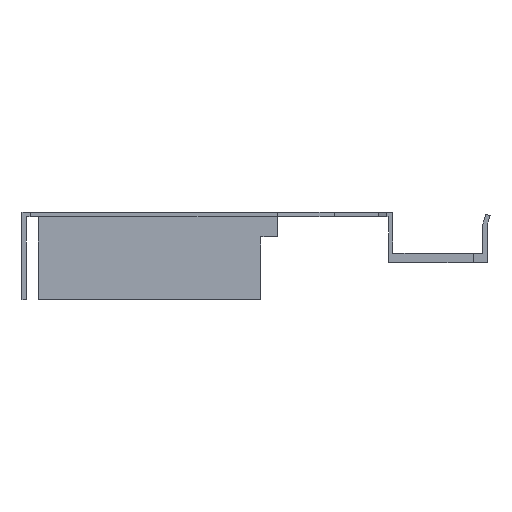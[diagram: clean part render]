
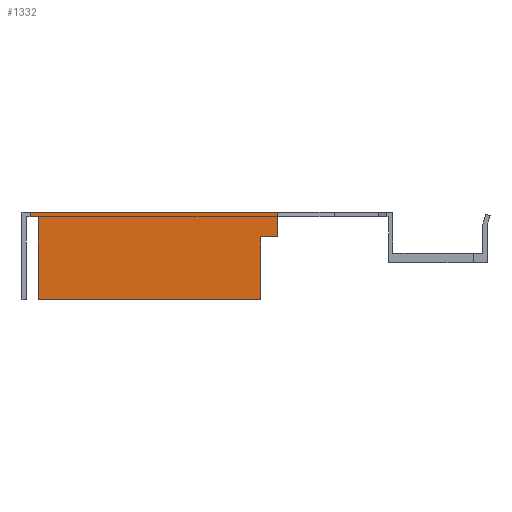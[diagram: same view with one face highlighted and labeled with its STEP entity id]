
A CAD part, left-side view. The second image highlights one B-rep face of the part: STEP entity #1332.
In plain terms, the highlighted planar face has unit normal (-1, 0, 0).
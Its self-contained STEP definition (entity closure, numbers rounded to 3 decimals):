
#5 = ORIENTED_EDGE ( 'NONE', *, *, #942, .F. ) ;
#10 = ORIENTED_EDGE ( 'NONE', *, *, #944, .T. ) ;
#17 = ORIENTED_EDGE ( 'NONE', *, *, #946, .F. ) ;
#18 = ORIENTED_EDGE ( 'NONE', *, *, #1043, .F. ) ;
#21 = ORIENTED_EDGE ( 'NONE', *, *, #1070, .F. ) ;
#25 = ORIENTED_EDGE ( 'NONE', *, *, #947, .T. ) ;
#28 = ORIENTED_EDGE ( 'NONE', *, *, #941, .T. ) ;
#42 = ORIENTED_EDGE ( 'NONE', *, *, #945, .T. ) ;
#226 = CARTESIAN_POINT ( 'NONE',  ( -867., 0.8, 6.7 ) ) ;
#227 = DIRECTION ( 'NONE',  ( 0., 1., 0. ) ) ;
#281 = CARTESIAN_POINT ( 'NONE',  ( -867., 0., 7.5 ) ) ;
#282 = DIRECTION ( 'NONE',  ( 0., -1., 0. ) ) ;
#330 = PLANE ( 'NONE',  #1101 ) ;
#333 = CARTESIAN_POINT ( 'NONE',  ( -867., -16.5, 0. ) ) ;
#339 = DIRECTION ( 'NONE',  ( -1., 0., 0. ) ) ;
#340 = DIRECTION ( 'NONE',  ( 0., 0., 1. ) ) ;
#511 = CARTESIAN_POINT ( 'NONE',  ( -867., 21.2, 3. ) ) ;
#512 = CARTESIAN_POINT ( 'NONE',  ( -867., 24.2, 3. ) ) ;
#513 = CARTESIAN_POINT ( 'NONE',  ( -867., 24.2, -8.5 ) ) ;
#514 = CARTESIAN_POINT ( 'NONE',  ( -867., 65., -8.5 ) ) ;
#528 = CARTESIAN_POINT ( 'NONE',  ( -867., 65., 6.7 ) ) ;
#535 = CARTESIAN_POINT ( 'NONE',  ( -867., 66.5, 6.7 ) ) ;
#550 = CARTESIAN_POINT ( 'NONE',  ( -867., 66.5, 7.5 ) ) ;
#555 = CARTESIAN_POINT ( 'NONE',  ( -867., 21.2, 7.5 ) ) ;
#642 = EDGE_LOOP ( 'NONE', ( #17, #18, #10, #28, #42, #25, #5, #21 ) ) ;
#678 = LINE ( 'NONE', #1563, #690 ) ;
#687 = LINE ( 'NONE', #1561, #692 ) ;
#690 = VECTOR ( 'NONE', #1560, 1000. ) ;
#691 = LINE ( 'NONE', #1557, #702 ) ;
#692 = VECTOR ( 'NONE', #1558, 1000. ) ;
#696 = LINE ( 'NONE', #1555, #697 ) ;
#697 = VECTOR ( 'NONE', #1554, 1000. ) ;
#698 = LINE ( 'NONE', #1553, #699 ) ;
#699 = VECTOR ( 'NONE', #1552, 1000. ) ;
#700 = LINE ( 'NONE', #1551, #701 ) ;
#701 = VECTOR ( 'NONE', #1550, 1000. ) ;
#702 = VECTOR ( 'NONE', #1548, 1000. ) ;
#885 = LINE ( 'NONE', #226, #886 ) ;
#886 = VECTOR ( 'NONE', #227, 1000. ) ;
#941 = EDGE_CURVE ( 'NONE', #1588, #1587, #678, .T. ) ;
#942 = EDGE_CURVE ( 'NONE', #1629, #1585, #687, .T. ) ;
#944 = EDGE_CURVE ( 'NONE', #1602, #1588, #696, .T. ) ;
#945 = EDGE_CURVE ( 'NONE', #1587, #1586, #698, .T. ) ;
#946 = EDGE_CURVE ( 'NONE', #1609, #1624, #700, .T. ) ;
#947 = EDGE_CURVE ( 'NONE', #1586, #1585, #691, .T. ) ;
#1043 = EDGE_CURVE ( 'NONE', #1602, #1609, #885, .T. ) ;
#1070 = EDGE_CURVE ( 'NONE', #1624, #1629, #1379, .T. ) ;
#1101 = AXIS2_PLACEMENT_3D ( 'NONE', #333, #339, #340 ) ;
#1332 = ADVANCED_FACE ( 'NONE', ( #1410 ), #330, .T. ) ;
#1379 = LINE ( 'NONE', #281, #1380 ) ;
#1380 = VECTOR ( 'NONE', #282, 1000. ) ;
#1410 = FACE_OUTER_BOUND ( 'NONE', #642, .T. ) ;
#1548 = DIRECTION ( 'NONE',  ( 0., -1., 0. ) ) ;
#1550 = DIRECTION ( 'NONE',  ( 0., 0., 1. ) ) ;
#1551 = CARTESIAN_POINT ( 'NONE',  ( -867., 66.5, 6.7 ) ) ;
#1552 = DIRECTION ( 'NONE',  ( 0., 0., 1. ) ) ;
#1553 = CARTESIAN_POINT ( 'NONE',  ( -867., 24.2, -8.5 ) ) ;
#1554 = DIRECTION ( 'NONE',  ( 0., 0., -1. ) ) ;
#1555 = CARTESIAN_POINT ( 'NONE',  ( -867., 65., 7.5 ) ) ;
#1557 = CARTESIAN_POINT ( 'NONE',  ( -867., 24.2, 3. ) ) ;
#1558 = DIRECTION ( 'NONE',  ( 0., 0., -1. ) ) ;
#1560 = DIRECTION ( 'NONE',  ( 0., -1., 0. ) ) ;
#1561 = CARTESIAN_POINT ( 'NONE',  ( -867., 21.2, 0. ) ) ;
#1563 = CARTESIAN_POINT ( 'NONE',  ( -867., 65., -8.5 ) ) ;
#1585 = VERTEX_POINT ( 'NONE', #511 ) ;
#1586 = VERTEX_POINT ( 'NONE', #512 ) ;
#1587 = VERTEX_POINT ( 'NONE', #513 ) ;
#1588 = VERTEX_POINT ( 'NONE', #514 ) ;
#1602 = VERTEX_POINT ( 'NONE', #528 ) ;
#1609 = VERTEX_POINT ( 'NONE', #535 ) ;
#1624 = VERTEX_POINT ( 'NONE', #550 ) ;
#1629 = VERTEX_POINT ( 'NONE', #555 ) ;
